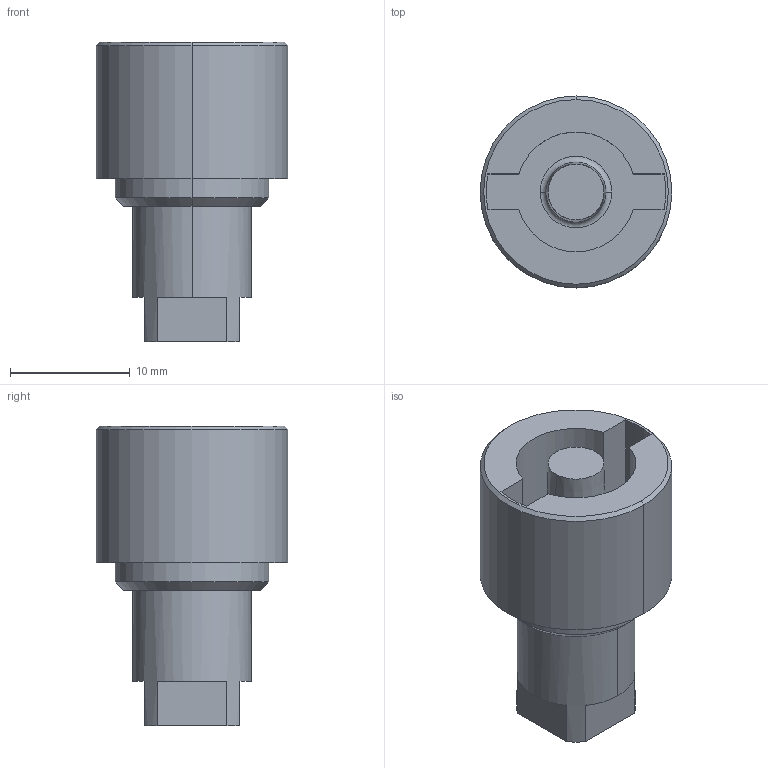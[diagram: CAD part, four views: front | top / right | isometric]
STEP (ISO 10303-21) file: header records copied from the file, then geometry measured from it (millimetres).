
FILE_DESCRIPTION (( 'STEP AP203' ), '1' );
FILE_NAME ('ALIS505_V0.STEP', '2018-03-30T08:36:45', ( '' ), ( '' ), 'SwSTEP 2.0', 'SolidWorks 2017', '' );
FILE_SCHEMA (( 'CONFIG_CONTROL_DESIGN' ));
Length unit declared in the file: millimetre
Products named in the file (3): 1000-215-04SK; ALIS505_V0
Assembly tree (1 placements, depth 2):
  1000-215-04SK
  ALIS505_V0
    1000-215-04SK
Bounding box: 16 x 16 x 25 mm (x, y, z)
Volume: 2563.3 mm3; surface area: 2008.3 mm2
Topology: 1 solids, 1 shells, 42 faces, 99 edges, 64 vertices
Faces by surface type: plane 19, cylinder 13, cone 8, torus 2
Entity records: 1497 total; most frequent: DIRECTION 241, CARTESIAN_POINT 210, ORIENTED_EDGE 198, EDGE_CURVE 99, AXIS2_PLACEMENT_3D 95, VERTEX_POINT 64, VECTOR 51, LINE 51
